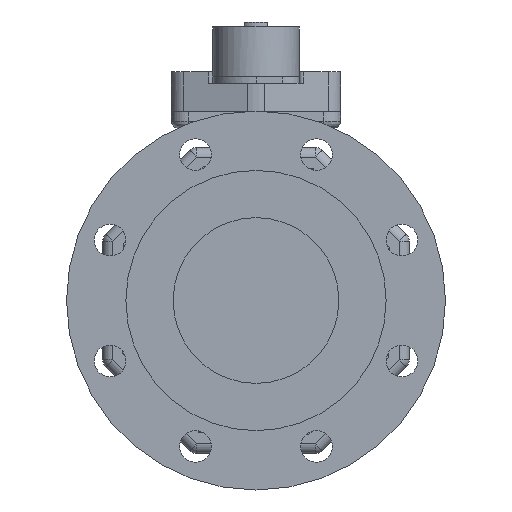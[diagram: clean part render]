
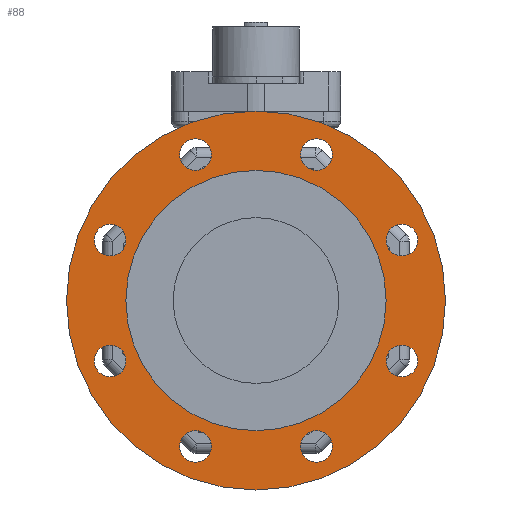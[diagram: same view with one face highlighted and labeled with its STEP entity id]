
A CAD part, left-side view. The second image highlights one B-rep face of the part: STEP entity #88.
In plain terms, the highlighted planar face has unit normal (-1, 0, 0).
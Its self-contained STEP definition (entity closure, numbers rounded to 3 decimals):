
#88=ADVANCED_FACE('',(#514,#515,#516,#517,#518,#519,#520,#521,#522,#523),#513,.T.);
#513=PLANE('',#3407);
#514=FACE_OUTER_BOUND('',#3408,.T.);
#515=FACE_BOUND('',#3409,.T.);
#516=FACE_BOUND('',#3410,.T.);
#517=FACE_BOUND('',#3411,.T.);
#518=FACE_BOUND('',#3412,.T.);
#519=FACE_BOUND('',#3413,.T.);
#520=FACE_BOUND('',#3414,.T.);
#521=FACE_BOUND('',#3415,.T.);
#522=FACE_BOUND('',#3416,.T.);
#523=FACE_BOUND('',#3417,.T.);
#3404=CARTESIAN_POINT('',(-108.8,-207.973,-238.6));
#3405=DIRECTION('',(-1.,0.,0.));
#3406=DIRECTION('',(0.,0.,1.));
#3407=AXIS2_PLACEMENT_3D('',#3404,#3405,#3406);
#3408=EDGE_LOOP('',(#5120,#5121));
#3409=EDGE_LOOP('',(#5122,#5123));
#3410=EDGE_LOOP('',(#5124,#5125));
#3411=EDGE_LOOP('',(#5126,#5127));
#3412=EDGE_LOOP('',(#5128,#5129));
#3413=EDGE_LOOP('',(#5130,#5131));
#3414=EDGE_LOOP('',(#5132,#5133));
#3415=EDGE_LOOP('',(#5134,#5135));
#3416=EDGE_LOOP('',(#5136,#5137));
#3417=EDGE_LOOP('',(#5138,#5139));
#5120=ORIENTED_EDGE('',*,*,#6575,.T.);
#5121=ORIENTED_EDGE('',*,*,#6576,.T.);
#5122=ORIENTED_EDGE('',*,*,#6577,.F.);
#5123=ORIENTED_EDGE('',*,*,#6578,.F.);
#5124=ORIENTED_EDGE('',*,*,#6579,.F.);
#5125=ORIENTED_EDGE('',*,*,#6580,.F.);
#5126=ORIENTED_EDGE('',*,*,#6581,.F.);
#5127=ORIENTED_EDGE('',*,*,#6582,.F.);
#5128=ORIENTED_EDGE('',*,*,#6583,.F.);
#5129=ORIENTED_EDGE('',*,*,#6584,.F.);
#5130=ORIENTED_EDGE('',*,*,#6585,.F.);
#5131=ORIENTED_EDGE('',*,*,#6586,.F.);
#5132=ORIENTED_EDGE('',*,*,#6587,.F.);
#5133=ORIENTED_EDGE('',*,*,#6588,.F.);
#5134=ORIENTED_EDGE('',*,*,#6589,.F.);
#5135=ORIENTED_EDGE('',*,*,#6590,.F.);
#5136=ORIENTED_EDGE('',*,*,#6591,.F.);
#5137=ORIENTED_EDGE('',*,*,#6592,.F.);
#5138=ORIENTED_EDGE('',*,*,#6593,.F.);
#5139=ORIENTED_EDGE('',*,*,#6594,.F.);
#6575=EDGE_CURVE('',#8117,#8118,#8119,.T.);
#6576=EDGE_CURVE('',#8118,#8117,#8125,.T.);
#6577=EDGE_CURVE('',#8131,#8132,#8133,.T.);
#6578=EDGE_CURVE('',#8132,#8131,#8139,.T.);
#6579=EDGE_CURVE('',#8145,#8146,#8147,.T.);
#6580=EDGE_CURVE('',#8146,#8145,#8153,.T.);
#6581=EDGE_CURVE('',#8159,#8160,#8161,.T.);
#6582=EDGE_CURVE('',#8160,#8159,#8167,.T.);
#6583=EDGE_CURVE('',#8173,#8174,#8175,.T.);
#6584=EDGE_CURVE('',#8174,#8173,#8181,.T.);
#6585=EDGE_CURVE('',#8187,#8188,#8189,.T.);
#6586=EDGE_CURVE('',#8188,#8187,#8195,.T.);
#6587=EDGE_CURVE('',#8201,#8202,#8203,.T.);
#6588=EDGE_CURVE('',#8202,#8201,#8209,.T.);
#6589=EDGE_CURVE('',#8215,#8216,#8217,.T.);
#6590=EDGE_CURVE('',#8216,#8215,#8223,.T.);
#6591=EDGE_CURVE('',#8229,#8230,#8231,.T.);
#6592=EDGE_CURVE('',#8230,#8229,#8237,.T.);
#6593=EDGE_CURVE('',#8243,#8244,#8245,.T.);
#6594=EDGE_CURVE('',#8244,#8243,#8251,.T.);
#8117=VERTEX_POINT('',#12651);
#8118=VERTEX_POINT('',#12652);
#8119=CIRCLE('',#12656,114.3);
#8125=CIRCLE('',#12660,114.3);
#8131=VERTEX_POINT('',#12661);
#8132=VERTEX_POINT('',#12662);
#8133=CIRCLE('',#12666,9.55);
#8139=CIRCLE('',#12670,9.55);
#8145=VERTEX_POINT('',#12671);
#8146=VERTEX_POINT('',#12672);
#8147=CIRCLE('',#12676,9.55);
#8153=CIRCLE('',#12680,9.55);
#8159=VERTEX_POINT('',#12681);
#8160=VERTEX_POINT('',#12682);
#8161=CIRCLE('',#12686,9.55);
#8167=CIRCLE('',#12690,9.55);
#8173=VERTEX_POINT('',#12691);
#8174=VERTEX_POINT('',#12692);
#8175=CIRCLE('',#12696,9.55);
#8181=CIRCLE('',#12700,9.55);
#8187=VERTEX_POINT('',#12701);
#8188=VERTEX_POINT('',#12702);
#8189=CIRCLE('',#12706,9.55);
#8195=CIRCLE('',#12710,9.55);
#8201=VERTEX_POINT('',#12711);
#8202=VERTEX_POINT('',#12712);
#8203=CIRCLE('',#12716,9.55);
#8209=CIRCLE('',#12720,9.55);
#8215=VERTEX_POINT('',#12721);
#8216=VERTEX_POINT('',#12722);
#8217=CIRCLE('',#12726,9.55);
#8223=CIRCLE('',#12730,9.55);
#8229=VERTEX_POINT('',#12731);
#8230=VERTEX_POINT('',#12732);
#8231=CIRCLE('',#12736,9.55);
#8237=CIRCLE('',#12740,9.55);
#8243=VERTEX_POINT('',#12741);
#8244=VERTEX_POINT('',#12742);
#8245=CIRCLE('',#12746,78.5);
#8251=CIRCLE('',#12750,78.5);
#12651=CARTESIAN_POINT('',(-108.8,0.,114.3));
#12652=CARTESIAN_POINT('',(-108.8,0.,-114.3));
#12653=CARTESIAN_POINT('',(-108.8,0.,0.));
#12654=DIRECTION('',(-1.,0.,0.));
#12655=DIRECTION('',(0.,0.,1.));
#12656=AXIS2_PLACEMENT_3D('',#12653,#12654,#12655);
#12657=CARTESIAN_POINT('',(-108.8,0.,0.));
#12658=DIRECTION('',(-1.,0.,0.));
#12659=DIRECTION('',(0.,0.,1.));
#12660=AXIS2_PLACEMENT_3D('',#12657,#12658,#12659);
#12661=CARTESIAN_POINT('',(-108.8,88.,26.901));
#12662=CARTESIAN_POINT('',(-108.8,88.,46.001));
#12663=CARTESIAN_POINT('',(-108.8,88.,36.451));
#12664=DIRECTION('',(-1.,0.,0.));
#12665=DIRECTION('',(0.,0.,1.));
#12666=AXIS2_PLACEMENT_3D('',#12663,#12664,#12665);
#12667=CARTESIAN_POINT('',(-108.8,88.,36.451));
#12668=DIRECTION('',(-1.,0.,0.));
#12669=DIRECTION('',(0.,0.,1.));
#12670=AXIS2_PLACEMENT_3D('',#12667,#12668,#12669);
#12671=CARTESIAN_POINT('',(-108.8,88.,-46.001));
#12672=CARTESIAN_POINT('',(-108.8,88.,-26.901));
#12673=CARTESIAN_POINT('',(-108.8,88.,-36.451));
#12674=DIRECTION('',(-1.,0.,0.));
#12675=DIRECTION('',(0.,0.,1.));
#12676=AXIS2_PLACEMENT_3D('',#12673,#12674,#12675);
#12677=CARTESIAN_POINT('',(-108.8,88.,-36.451));
#12678=DIRECTION('',(-1.,0.,0.));
#12679=DIRECTION('',(0.,0.,1.));
#12680=AXIS2_PLACEMENT_3D('',#12677,#12678,#12679);
#12681=CARTESIAN_POINT('',(-108.8,36.451,-97.55));
#12682=CARTESIAN_POINT('',(-108.8,36.451,-78.45));
#12683=CARTESIAN_POINT('',(-108.8,36.451,-88.));
#12684=DIRECTION('',(-1.,0.,0.));
#12685=DIRECTION('',(0.,0.,1.));
#12686=AXIS2_PLACEMENT_3D('',#12683,#12684,#12685);
#12687=CARTESIAN_POINT('',(-108.8,36.451,-88.));
#12688=DIRECTION('',(-1.,0.,0.));
#12689=DIRECTION('',(0.,0.,1.));
#12690=AXIS2_PLACEMENT_3D('',#12687,#12688,#12689);
#12691=CARTESIAN_POINT('',(-108.8,-36.451,-97.55));
#12692=CARTESIAN_POINT('',(-108.8,-36.451,-78.45));
#12693=CARTESIAN_POINT('',(-108.8,-36.451,-88.));
#12694=DIRECTION('',(-1.,0.,0.));
#12695=DIRECTION('',(0.,0.,1.));
#12696=AXIS2_PLACEMENT_3D('',#12693,#12694,#12695);
#12697=CARTESIAN_POINT('',(-108.8,-36.451,-88.));
#12698=DIRECTION('',(-1.,0.,0.));
#12699=DIRECTION('',(0.,0.,1.));
#12700=AXIS2_PLACEMENT_3D('',#12697,#12698,#12699);
#12701=CARTESIAN_POINT('',(-108.8,-88.,-46.001));
#12702=CARTESIAN_POINT('',(-108.8,-88.,-26.901));
#12703=CARTESIAN_POINT('',(-108.8,-88.,-36.451));
#12704=DIRECTION('',(-1.,0.,0.));
#12705=DIRECTION('',(0.,0.,1.));
#12706=AXIS2_PLACEMENT_3D('',#12703,#12704,#12705);
#12707=CARTESIAN_POINT('',(-108.8,-88.,-36.451));
#12708=DIRECTION('',(-1.,0.,0.));
#12709=DIRECTION('',(0.,0.,1.));
#12710=AXIS2_PLACEMENT_3D('',#12707,#12708,#12709);
#12711=CARTESIAN_POINT('',(-108.8,-88.,26.901));
#12712=CARTESIAN_POINT('',(-108.8,-88.,46.001));
#12713=CARTESIAN_POINT('',(-108.8,-88.,36.451));
#12714=DIRECTION('',(-1.,0.,0.));
#12715=DIRECTION('',(0.,0.,1.));
#12716=AXIS2_PLACEMENT_3D('',#12713,#12714,#12715);
#12717=CARTESIAN_POINT('',(-108.8,-88.,36.451));
#12718=DIRECTION('',(-1.,0.,0.));
#12719=DIRECTION('',(0.,0.,1.));
#12720=AXIS2_PLACEMENT_3D('',#12717,#12718,#12719);
#12721=CARTESIAN_POINT('',(-108.8,-36.451,78.45));
#12722=CARTESIAN_POINT('',(-108.8,-36.451,97.55));
#12723=CARTESIAN_POINT('',(-108.8,-36.451,88.));
#12724=DIRECTION('',(-1.,0.,0.));
#12725=DIRECTION('',(0.,0.,1.));
#12726=AXIS2_PLACEMENT_3D('',#12723,#12724,#12725);
#12727=CARTESIAN_POINT('',(-108.8,-36.451,88.));
#12728=DIRECTION('',(-1.,0.,0.));
#12729=DIRECTION('',(0.,0.,1.));
#12730=AXIS2_PLACEMENT_3D('',#12727,#12728,#12729);
#12731=CARTESIAN_POINT('',(-108.8,36.451,78.45));
#12732=CARTESIAN_POINT('',(-108.8,36.451,97.55));
#12733=CARTESIAN_POINT('',(-108.8,36.451,88.));
#12734=DIRECTION('',(-1.,0.,0.));
#12735=DIRECTION('',(0.,0.,1.));
#12736=AXIS2_PLACEMENT_3D('',#12733,#12734,#12735);
#12737=CARTESIAN_POINT('',(-108.8,36.451,88.));
#12738=DIRECTION('',(-1.,0.,0.));
#12739=DIRECTION('',(0.,0.,1.));
#12740=AXIS2_PLACEMENT_3D('',#12737,#12738,#12739);
#12741=CARTESIAN_POINT('',(-108.8,0.,-78.5));
#12742=CARTESIAN_POINT('',(-108.8,0.,78.5));
#12743=CARTESIAN_POINT('',(-108.8,0.,0.));
#12744=DIRECTION('',(-1.,0.,0.));
#12745=DIRECTION('',(0.,0.,1.));
#12746=AXIS2_PLACEMENT_3D('',#12743,#12744,#12745);
#12747=CARTESIAN_POINT('',(-108.8,0.,0.));
#12748=DIRECTION('',(-1.,0.,0.));
#12749=DIRECTION('',(0.,0.,1.));
#12750=AXIS2_PLACEMENT_3D('',#12747,#12748,#12749);
